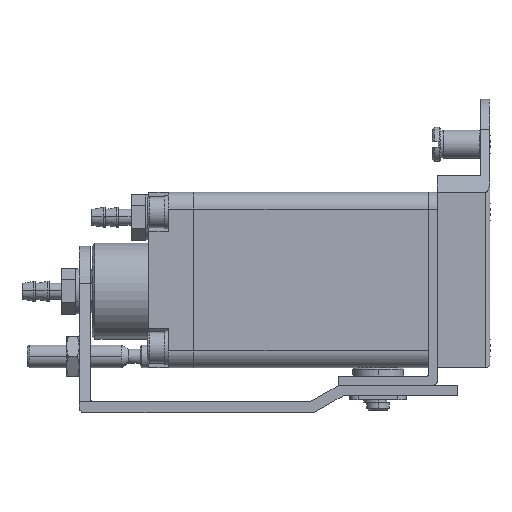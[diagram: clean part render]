
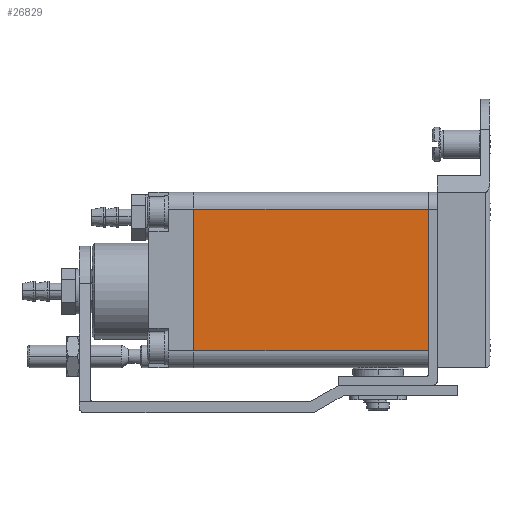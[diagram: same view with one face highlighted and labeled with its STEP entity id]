
A CAD part, left-side view. The second image highlights one B-rep face of the part: STEP entity #26829.
In plain terms, the highlighted planar face has unit normal (-1, 0, 0).
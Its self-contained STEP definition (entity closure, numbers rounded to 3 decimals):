
#411 = VERTEX_POINT ( 'NONE', #23451 ) ;
#794 = CARTESIAN_POINT ( 'NONE',  ( -11.5, 20.75, -12.5 ) ) ;
#3914 = ORIENTED_EDGE ( 'NONE', *, *, #17944, .F. ) ;
#4192 = CARTESIAN_POINT ( 'NONE',  ( -11.5, 0., 0. ) ) ;
#5815 = CARTESIAN_POINT ( 'NONE',  ( -11.5, 20.75, 12.5 ) ) ;
#6091 = CARTESIAN_POINT ( 'NONE',  ( -11.5, -4.15, -15. ) ) ;
#8896 = CARTESIAN_POINT ( 'NONE',  ( -11.5, 41.5, 0. ) ) ;
#9405 = DIRECTION ( 'NONE',  ( 0., 0., 1. ) ) ;
#11543 = VECTOR ( 'NONE', #20155, 1000. ) ;
#15646 = FACE_OUTER_BOUND ( 'NONE', #41359, .T. ) ;
#16590 = EDGE_CURVE ( 'NONE', #39248, #411, #37924, .T. ) ;
#16940 = VERTEX_POINT ( 'NONE', #33302 ) ;
#17339 = DIRECTION ( 'NONE',  ( 0., 1., 0. ) ) ;
#17944 = EDGE_CURVE ( 'NONE', #16940, #411, #41825, .T. ) ;
#18025 = LINE ( 'NONE', #5815, #34624 ) ;
#20155 = DIRECTION ( 'NONE',  ( 0., 0., -1. ) ) ;
#20538 = EDGE_CURVE ( 'NONE', #16940, #38279, #38929, .T. ) ;
#21274 = ORIENTED_EDGE ( 'NONE', *, *, #20538, .T. ) ;
#21391 = CARTESIAN_POINT ( 'NONE',  ( -11.5, 41.5, 12.5 ) ) ;
#23451 = CARTESIAN_POINT ( 'NONE',  ( -11.5, 41.5, -12.5 ) ) ;
#24364 = VECTOR ( 'NONE', #17339, 1000. ) ;
#26829 = ADVANCED_FACE ( 'NONE', ( #15646 ), #35720, .T. ) ;
#29276 = DIRECTION ( 'NONE',  ( -1., 0., 0. ) ) ;
#29403 = CARTESIAN_POINT ( 'NONE',  ( -11.5, 0., 12.5 ) ) ;
#29770 = ORIENTED_EDGE ( 'NONE', *, *, #37867, .T. ) ;
#30217 = VECTOR ( 'NONE', #37425, 1000. ) ;
#33302 = CARTESIAN_POINT ( 'NONE',  ( -11.5, 0., -12.5 ) ) ;
#34624 = VECTOR ( 'NONE', #42622, 1000. ) ;
#35720 = PLANE ( 'NONE',  #42154 ) ;
#37425 = DIRECTION ( 'NONE',  ( 0., 0., 1. ) ) ;
#37867 = EDGE_CURVE ( 'NONE', #38279, #39248, #18025, .T. ) ;
#37924 = LINE ( 'NONE', #8896, #11543 ) ;
#38279 = VERTEX_POINT ( 'NONE', #29403 ) ;
#38929 = LINE ( 'NONE', #4192, #30217 ) ;
#39248 = VERTEX_POINT ( 'NONE', #21391 ) ;
#41038 = ORIENTED_EDGE ( 'NONE', *, *, #16590, .T. ) ;
#41359 = EDGE_LOOP ( 'NONE', ( #21274, #29770, #41038, #3914 ) ) ;
#41825 = LINE ( 'NONE', #794, #24364 ) ;
#42154 = AXIS2_PLACEMENT_3D ( 'NONE', #6091, #29276, #9405 ) ;
#42622 = DIRECTION ( 'NONE',  ( 0., 1., 0. ) ) ;
